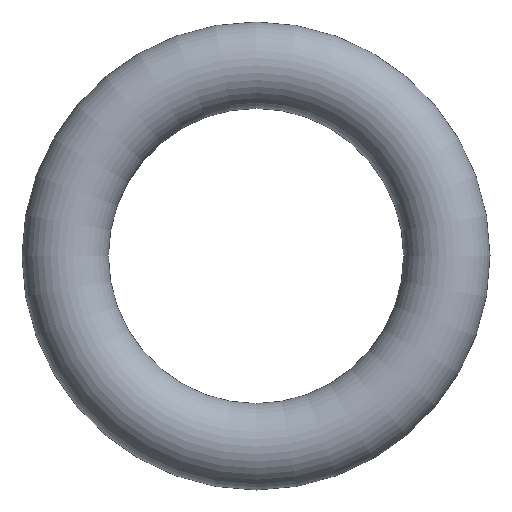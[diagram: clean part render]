
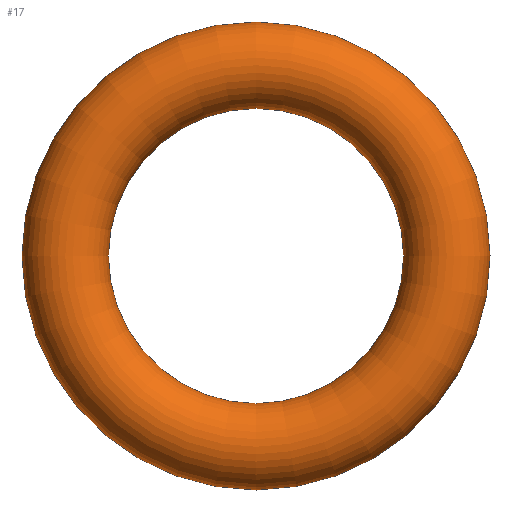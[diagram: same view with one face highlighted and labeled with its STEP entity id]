
A CAD part, left-side view. The second image highlights one B-rep face of the part: STEP entity #17.
In plain terms, the highlighted toroidal (fillet/blend) face has major radius 3.93 mm and minor radius 0.89 mm.
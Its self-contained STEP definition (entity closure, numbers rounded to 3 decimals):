
#17 = ADVANCED_FACE('',(#18),#31,.T.);
#18 = FACE_BOUND('',#19,.T.);
#19 = EDGE_LOOP('',(#20,#49,#71,#72));
#20 = ORIENTED_EDGE('',*,*,#21,.F.);
#21 = EDGE_CURVE('',#22,#22,#24,.T.);
#22 = VERTEX_POINT('',#23);
#23 = CARTESIAN_POINT('',(35.7,0.,4.82));
#24 = SEAM_CURVE('',#25,(#30,#42),.PCURVE_S1.);
#25 = CIRCLE('',#26,4.82);
#26 = AXIS2_PLACEMENT_3D('',#27,#28,#29);
#27 = CARTESIAN_POINT('',(35.7,0.,0.));
#28 = DIRECTION('',(1.,0.,0.));
#29 = DIRECTION('',(-0.,0.,1.));
#30 = PCURVE('',#31,#36);
#31 = TOROIDAL_SURFACE('',#32,3.93,0.89);
#32 = AXIS2_PLACEMENT_3D('',#33,#34,#35);
#33 = CARTESIAN_POINT('',(35.7,0.,0.));
#34 = DIRECTION('',(1.,0.,0.));
#35 = DIRECTION('',(-0.,0.,1.));
#36 = DEFINITIONAL_REPRESENTATION('',(#37),#41);
#37 = LINE('',#38,#39);
#38 = CARTESIAN_POINT('',(0.,6.283));
#39 = VECTOR('',#40,1.);
#40 = DIRECTION('',(1.,0.));
#41 = ( GEOMETRIC_REPRESENTATION_CONTEXT(2) 
PARAMETRIC_REPRESENTATION_CONTEXT() REPRESENTATION_CONTEXT('2D SPACE',''
  ) );
#42 = PCURVE('',#31,#43);
#43 = DEFINITIONAL_REPRESENTATION('',(#44),#48);
#44 = LINE('',#45,#46);
#45 = CARTESIAN_POINT('',(0.,0.));
#46 = VECTOR('',#47,1.);
#47 = DIRECTION('',(1.,0.));
#48 = ( GEOMETRIC_REPRESENTATION_CONTEXT(2) 
PARAMETRIC_REPRESENTATION_CONTEXT() REPRESENTATION_CONTEXT('2D SPACE',''
  ) );
#49 = ORIENTED_EDGE('',*,*,#50,.F.);
#50 = EDGE_CURVE('',#22,#22,#51,.T.);
#51 = SEAM_CURVE('',#52,(#57,#64),.PCURVE_S1.);
#52 = CIRCLE('',#53,0.89);
#53 = AXIS2_PLACEMENT_3D('',#54,#55,#56);
#54 = CARTESIAN_POINT('',(35.7,0.,3.93));
#55 = DIRECTION('',(0.,1.,0.));
#56 = DIRECTION('',(0.,0.,1.));
#57 = PCURVE('',#31,#58);
#58 = DEFINITIONAL_REPRESENTATION('',(#59),#63);
#59 = LINE('',#60,#61);
#60 = CARTESIAN_POINT('',(6.283,-0.));
#61 = VECTOR('',#62,1.);
#62 = DIRECTION('',(0.,1.));
#63 = ( GEOMETRIC_REPRESENTATION_CONTEXT(2) 
PARAMETRIC_REPRESENTATION_CONTEXT() REPRESENTATION_CONTEXT('2D SPACE',''
  ) );
#64 = PCURVE('',#31,#65);
#65 = DEFINITIONAL_REPRESENTATION('',(#66),#70);
#66 = LINE('',#67,#68);
#67 = CARTESIAN_POINT('',(0.,-0.));
#68 = VECTOR('',#69,1.);
#69 = DIRECTION('',(0.,1.));
#70 = ( GEOMETRIC_REPRESENTATION_CONTEXT(2) 
PARAMETRIC_REPRESENTATION_CONTEXT() REPRESENTATION_CONTEXT('2D SPACE',''
  ) );
#71 = ORIENTED_EDGE('',*,*,#21,.T.);
#72 = ORIENTED_EDGE('',*,*,#50,.T.);
